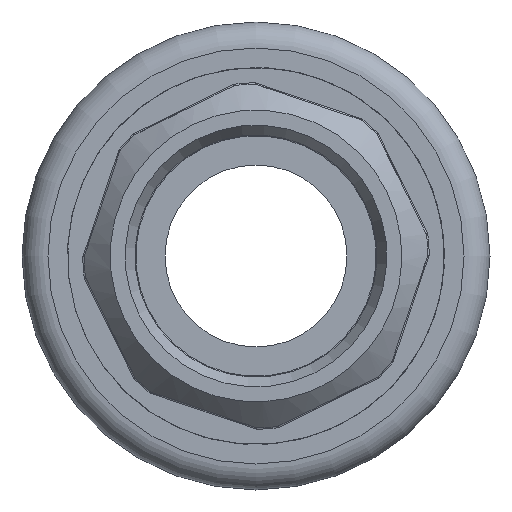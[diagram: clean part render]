
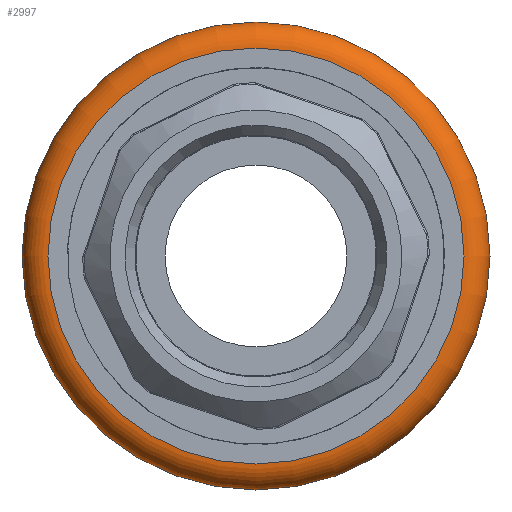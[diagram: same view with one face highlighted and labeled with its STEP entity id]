
A CAD part, left-side view. The second image highlights one B-rep face of the part: STEP entity #2997.
In plain terms, the highlighted toroidal (fillet/blend) face has major radius 16 mm and minor radius 2 mm.
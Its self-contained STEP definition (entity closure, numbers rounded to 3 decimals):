
#94=TOROIDAL_SURFACE('',#4019,16.,2.);
#918=ORIENTED_EDGE('',*,*,#1614,.T.);
#919=ORIENTED_EDGE('',*,*,#1613,.F.);
#1613=EDGE_CURVE('',#1989,#1989,#2234,.T.);
#1614=EDGE_CURVE('',#1990,#1990,#2235,.T.);
#1989=VERTEX_POINT('',#5873);
#1990=VERTEX_POINT('',#5876);
#2234=CIRCLE('',#4018,16.);
#2235=CIRCLE('',#4020,18.);
#2475=EDGE_LOOP('',(#918));
#2476=EDGE_LOOP('',(#919));
#2723=FACE_BOUND('',#2475,.T.);
#2724=FACE_BOUND('',#2476,.T.);
#2997=ADVANCED_FACE('',(#2723,#2724),#94,.T.);
#4018=AXIS2_PLACEMENT_3D('',#5872,#4656,#4657);
#4019=AXIS2_PLACEMENT_3D('',#5874,#4658,#4659);
#4020=AXIS2_PLACEMENT_3D('',#5875,#4660,#4661);
#4656=DIRECTION('',(-1.,0.,0.));
#4657=DIRECTION('',(0.,0.,1.));
#4658=DIRECTION('',(-1.,0.,0.));
#4659=DIRECTION('',(0.,0.,1.));
#4660=DIRECTION('',(-1.,0.,0.));
#4661=DIRECTION('',(0.,0.,1.));
#5872=CARTESIAN_POINT('',(0.,0.,0.));
#5873=CARTESIAN_POINT('',(0.,0.,16.));
#5874=CARTESIAN_POINT('',(2.,0.,0.));
#5875=CARTESIAN_POINT('',(2.,0.,0.));
#5876=CARTESIAN_POINT('',(2.,0.,18.));
